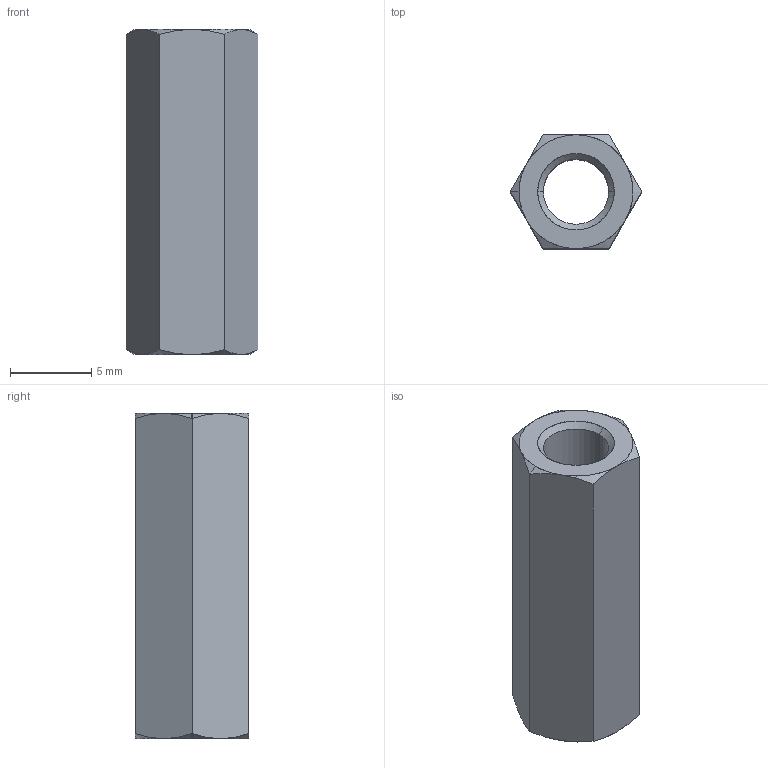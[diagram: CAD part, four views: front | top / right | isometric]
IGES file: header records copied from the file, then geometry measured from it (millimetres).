
Start section: SolidWorks IGES file using analytic representation for surfaces
Global section: file name: C:\Users\ianosborn\Desktop\N0503.NP_v2\N0503.NP_v2_20250227_IGES\N0503.040-020-NP.igs; native system: SolidWorks 2019; preprocessor: SolidWorks 2019; author: IanOsborn; date: 250227.144258; units: millimetre
Bounding box: 8.08 x 7 x 20 mm (x, y, z)
Surface area: 787.2 mm2 (no closed solid volume)
Topology: 0 solids, 0 shells, 28 faces, 286 edges, 286 vertices
Faces by surface type: revolution 20, bspline 8
